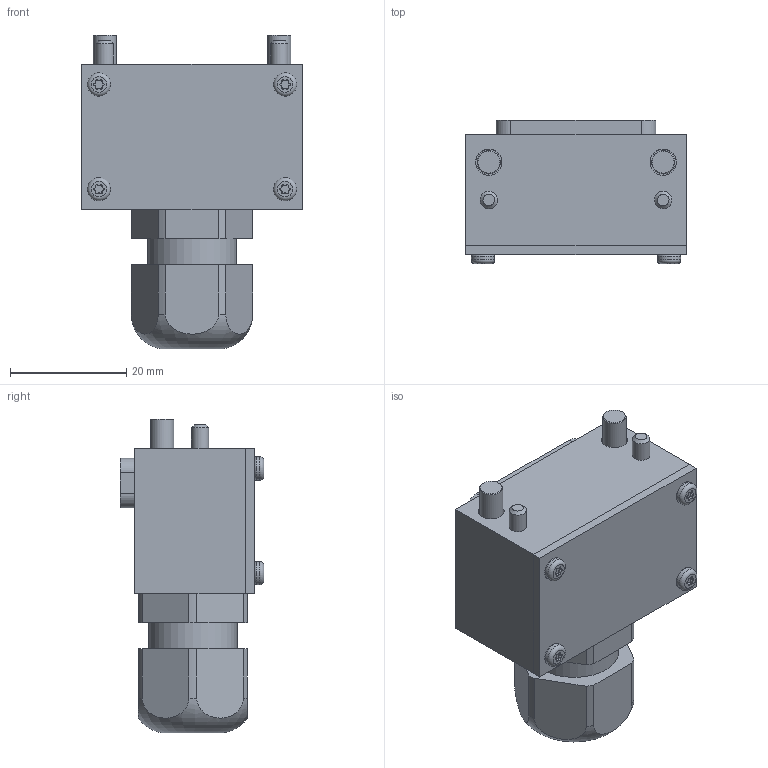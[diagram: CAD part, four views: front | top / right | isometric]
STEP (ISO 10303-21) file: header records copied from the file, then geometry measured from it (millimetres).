
FILE_DESCRIPTION (( 'STEP AP214' ), '1' );
FILE_NAME ('1507-C58A REV02.STEP', '2019-02-26T15:58:17', ( 'Any Employee' ), ( 'Applied Robotics Inc.' ), 'SwSTEP 2.0', 'SolidWorks 2019', '' );
FILE_SCHEMA (( 'AUTOMOTIVE_DESIGN' ));
Length unit declared in the file: inch
Products named in the file (9): 48021; 96504-P1023; 49975_99397A068; 1602-C68N; 1507-C61N; 96504-P1022; 0909-P38N; 1507-C58A REV02; 1103-P65N
Assembly tree (51 placements, depth 2):
  1507-C58A REV02
    1507-C61N
    1602-C68N
    0909-P38N
    96504-P1022  x20
    96504-P1023  x20
    48021  x2
    49975_99397A068  x4
    1103-P65N  x2
Bounding box: 38 x 24.7 x 53.97 mm (x, y, z)
Volume: 18301.5 mm3; surface area: 16969.9 mm2
Topology: 51 solids, 51 shells, 900 faces, 1991 edges, 1320 vertices
Faces by surface type: cylinder 414, plane 348, cone 73, torus 51, bspline 14
Full cylindrical faces by diameter (mm): 1.17 x20, 1.37 x20, 1.39 x20, 1.4 x4, 1.43 x20, 1.67 x20, 1.73 x20, 1.79 x20, 1.96 x20, 2.5 x4, 2.987 x2, 3 x2, 4 x6, 4.5 x2, 7 x2, 7.5 x2, 10 x1, 13.5 x1, 15.2 x3
Entity records: 9979 total; most frequent: CARTESIAN_POINT 3521, DIRECTION 1221, ORIENTED_EDGE 1108, EDGE_CURVE 554, AXIS2_PLACEMENT_3D 488, VERTEX_POINT 403, EDGE_LOOP 385, FACE_OUTER_BOUND 303
